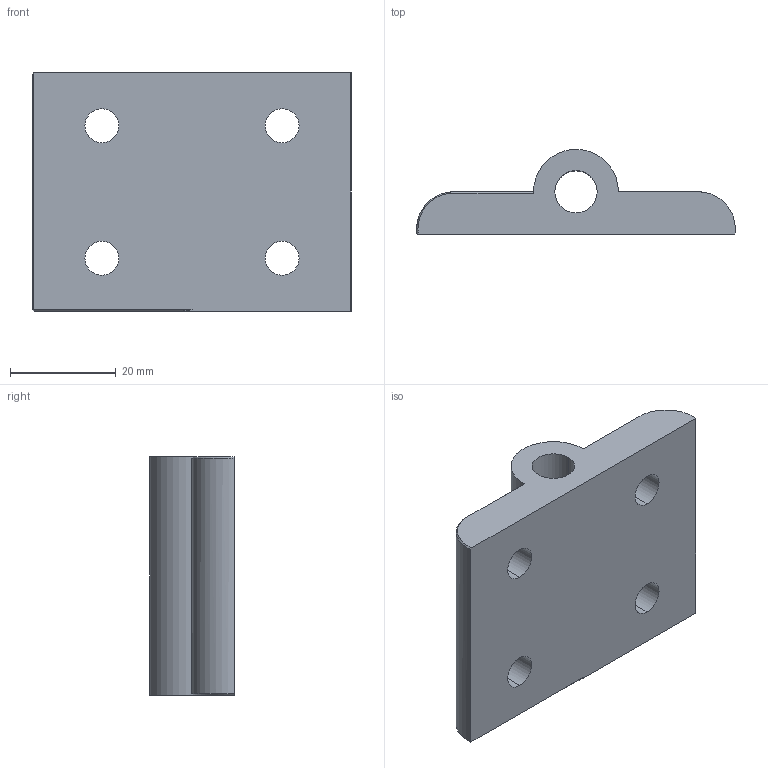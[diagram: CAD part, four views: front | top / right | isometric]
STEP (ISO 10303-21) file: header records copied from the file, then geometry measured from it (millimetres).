
FILE_DESCRIPTION (( 'STEP AP203' ), '1' );
FILE_NAME ('HD0645.STEP', '2024-02-19T12:25:27', ( '' ), ( '' ), 'SwSTEP 2.0', 'SolidWorks 2022', '' );
FILE_SCHEMA (( 'CONFIG_CONTROL_DESIGN' ));
Length unit declared in the file: millimetre
Products named in the file (1): HD0645
Bounding box: 60.14 x 15.98 x 45 mm (x, y, z)
Volume: 21384 mm3; surface area: 8695.4 mm2
Topology: 1 solids, 1 shells, 34 faces, 97 edges, 61 vertices
Faces by surface type: cylinder 15, cone 11, plane 8
Entity records: 1245 total; most frequent: CARTESIAN_POINT 244, DIRECTION 203, ORIENTED_EDGE 194, EDGE_CURVE 97, AXIS2_PLACEMENT_3D 80, VERTEX_POINT 61, CIRCLE 45, VECTOR 43
